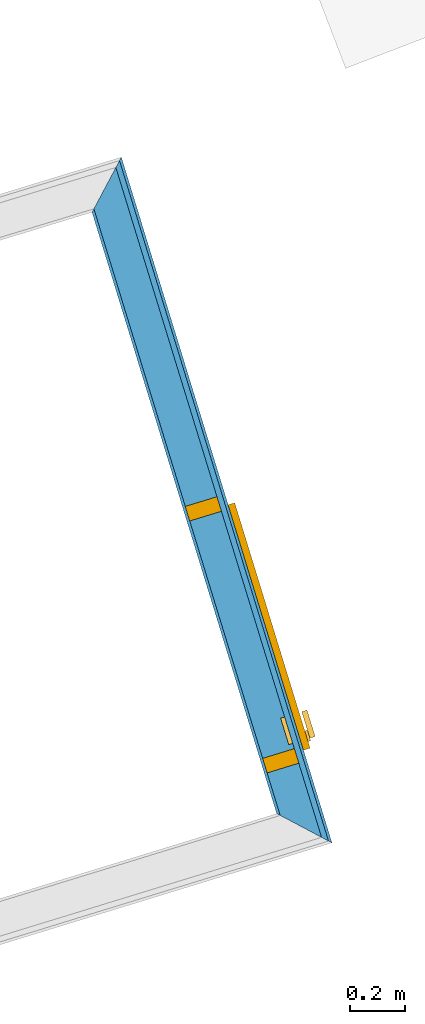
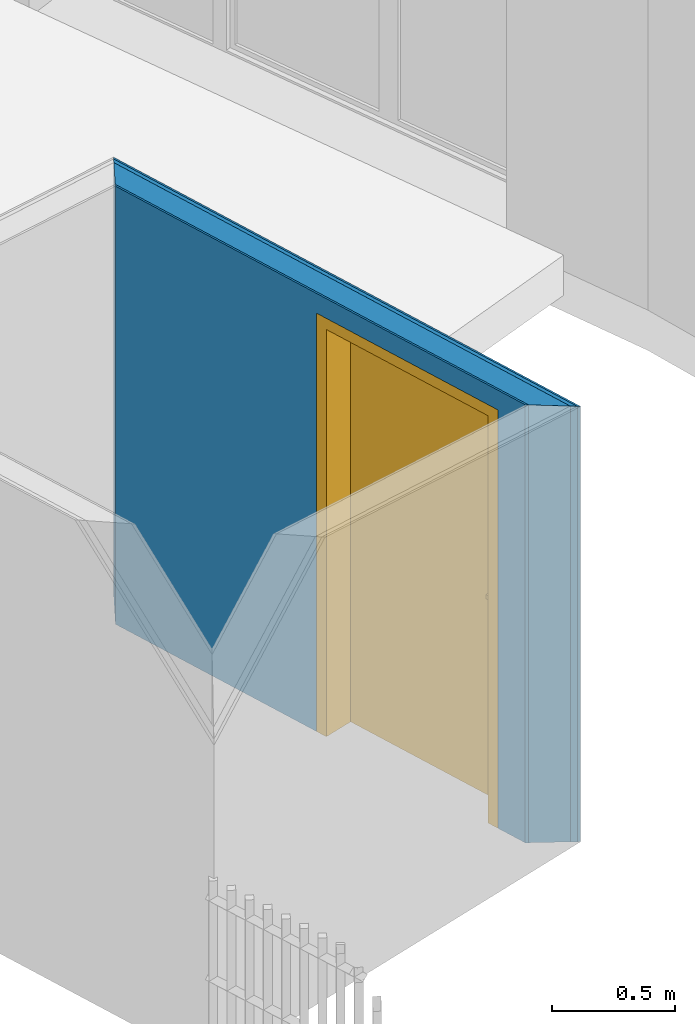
# One storey, part 120 of 195: 4 building element parts, 1 door, 1 opening, 1 element without a shape of its own.
"""IFC2X3 building model written with IfcOpenShell, lengths in metres."""

from ifc_helpers import new_model, entity, si_unit, converted_unit, derived_unit, money_unit, direction, frame, origin_with_axes, origin_2d_with_axis, place, context, subcontext, project, spatial, polyline, rectangle, outline, extrude, boolean, faceted_brep, source, transform, mapped, material, type_object, element, fill, aggregate, save


model = new_model("IFC2X3")

# Units and contexts
model_context = context("Model", 3, precision=1e-05, world=origin_with_axes(), true_north=direction((0.0, 1.0)))
body_context = subcontext(model_context, "Body", "Model", "MODEL_VIEW")
ifc_project = project(units=[si_unit("LENGTHUNIT", "METRE"), si_unit("AREAUNIT", "SQUARE_METRE"), si_unit("VOLUMEUNIT", "CUBIC_METRE"), converted_unit("PLANEANGLEUNIT", "DEGREE", entity("IfcPlaneAngleMeasure", 0.0174532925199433), si_unit("PLANEANGLEUNIT", "RADIAN"), dimensions=[0, 0, 0, 0, 0, 0, 0]), money_unit("CHF"), converted_unit("TIMEUNIT", "Year", entity("IfcTimeMeasure", 31557600.0), si_unit("TIMEUNIT", "SECOND"), dimensions=[0, 0, 1, 0, 0, 0, 0]), si_unit("MASSUNIT", "GRAM", prefix="KILO"), si_unit("THERMODYNAMICTEMPERATUREUNIT", "DEGREE_CELSIUS"), si_unit("LUMINOUSINTENSITYUNIT", "LUMEN"), si_unit("ENERGYUNIT", "JOULE", prefix="MEGA"), derived_unit("THERMALCONDUCTANCEUNIT", [(si_unit("POWERUNIT", "WATT"), 1), (si_unit("LENGTHUNIT", "METRE"), -1), (si_unit("THERMODYNAMICTEMPERATUREUNIT", "KELVIN"), -1)]), derived_unit("SPECIFICHEATCAPACITYUNIT", [(si_unit("ENERGYUNIT", "JOULE"), 1), (si_unit("MASSUNIT", "GRAM", prefix="KILO"), -1), (si_unit("THERMODYNAMICTEMPERATUREUNIT", "KELVIN"), -1)]), derived_unit("MASSDENSITYUNIT", [(si_unit("MASSUNIT", "GRAM", prefix="KILO"), 1), (si_unit("VOLUMEUNIT", "CUBIC_METRE"), -1)])], contexts=[model_context])

# Site, building, storey
site_placement = place(None, origin_with_axes())
site = spatial("IfcSite", under=ifc_project, at=site_placement, Name="Site", CompositionType="ELEMENT")
building_placement = place(site_placement, origin_with_axes())
building = spatial("IfcBuilding", under=site, at=building_placement, Name="Bâtiment", CompositionType="ELEMENT")
storey_placement = place(building_placement, origin_with_axes())
storey = spatial("IfcBuildingStorey", under=building, at=storey_placement, Name="rdc", CompositionType="ELEMENT", Elevation=0.0)

# Door
door_style = type_object("IfcDoorStyle", Name="Porte_1v", ConstructionType="NOTDEFINED", OperationType="NOTDEFINED", ParameterTakesPrecedence=False, Sizeable=False)
shared_shape = source(origin_with_axes(), body_context, "Body", "Brep", [
    faceted_brep([(-0.505, 0.0, 0.0), (-0.505, 0.0, 2.08), (0.505, 0.0, 2.08), (0.505, 0.0, 0.0), (0.465, 0.0, 0.0), (0.465, 0.0, 2.04), (-0.465, 0.0, 2.04), (-0.465, 0.0, 0.0), (-0.505, -0.16, 0.0), (-0.505, -0.16, 2.08), (0.505, -0.16, 2.08), (0.505, -0.16, 0.0), (0.45, -0.16, 0.0), (0.45, -0.015, 0.0), (0.465, -0.015, 0.0), (0.465, -0.015, 2.04), (-0.465, -0.015, 2.04), (-0.465, -0.015, 0.0), (-0.45, -0.015, 0.0), (-0.45, -0.16, 0.0), (-0.45, -0.16, 2.025), (0.45, -0.16, 2.025), (0.45, -0.015, 2.025), (-0.45, -0.015, 2.025)], [[[0, 1, 2, 3, 4, 5, 6, 7]], [[8, 9, 1, 0]], [[9, 10, 2, 1]], [[10, 11, 3, 2]], [[3, 11, 12, 13, 14, 4]], [[5, 4, 14, 15]], [[6, 5, 15, 16]], [[7, 6, 16, 17]], [[0, 7, 17, 18, 19, 8]], [[19, 20, 21, 12, 11, 10, 9, 8]], [[22, 13, 12, 21]], [[17, 16, 15, 14, 13, 22, 23, 18]], [[18, 23, 20, 19]], [[23, 22, 21, 20]]]),
    faceted_brep([(0.4, -0.015, 0.9), (0.4, -0.015, 1.1), (0.44, -0.015, 1.1), (0.44, -0.015, 0.9), (0.4, -0.025, 0.9), (0.4, -0.025, 1.1), (0.44, -0.025, 1.1), (0.44, -0.025, 0.9)], [[[0, 1, 2, 3]], [[0, 4, 5, 1]], [[1, 5, 6, 2]], [[2, 6, 7, 3]], [[3, 7, 4, 0]], [[7, 6, 5, 4]]]),
    faceted_brep([(0.33, -0.025, 1.0), (0.33, -0.025, 1.02), (0.43, -0.025, 1.02), (0.43, -0.025, 1.0), (0.33, -0.045, 1.0), (0.33, -0.045, 1.02), (0.43, -0.045, 1.02), (0.43, -0.045, 1.0)], [[[0, 1, 2, 3]], [[0, 4, 5, 1]], [[1, 5, 6, 2]], [[2, 6, 7, 3]], [[3, 7, 4, 0]], [[7, 6, 5, 4]]]),
    faceted_brep([(0.4, 0.035, 0.9), (0.4, 0.035, 1.1), (0.44, 0.035, 1.1), (0.44, 0.035, 0.9), (0.4, 0.025, 0.9), (0.4, 0.025, 1.1), (0.44, 0.025, 1.1), (0.44, 0.025, 0.9)], [[[0, 1, 2, 3]], [[0, 4, 5, 1]], [[1, 5, 6, 2]], [[2, 6, 7, 3]], [[3, 7, 4, 0]], [[7, 6, 5, 4]]]),
    faceted_brep([(0.33, 0.05500000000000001, 1.0), (0.33, 0.05500000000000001, 1.02), (0.43, 0.05500000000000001, 1.02), (0.43, 0.05500000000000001, 1.0), (0.33, 0.035, 1.0), (0.33, 0.035, 1.02), (0.43, 0.035, 1.02), (0.43, 0.035, 1.0)], [[[0, 1, 2, 3]], [[0, 4, 5, 1]], [[1, 5, 6, 2]], [[2, 6, 7, 3]], [[3, 7, 4, 0]], [[7, 6, 5, 4]]]),
    faceted_brep([(0.465, 0.025, 0.0), (0.465, -0.015, 0.0), (-0.465, -0.015, 0.0), (-0.465, 0.025, 0.0), (0.465, 0.025, 2.04), (0.465, -0.015, 2.04), (-0.465, -0.015, 2.04), (-0.465, 0.025, 2.04)], [[[0, 1, 2, 3]], [[4, 5, 1, 0]], [[1, 5, 6, 2]], [[3, 2, 6, 7]], [[0, 3, 7, 4]], [[7, 6, 5, 4]]]),
])
wall_placement = place(storey_placement, frame((9583.490564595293, -1047.727976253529, 57.7), z_axis=(0.0, 0.0, 1.0), x_axis=(0.2935988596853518, -0.9559287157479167, 0.0)))
opening_placement = place(wall_placement, frame((1.782991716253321, 0.0, 0.0), z_axis=(0.0, 0.0, 1.0), x_axis=(1.0, 0.0, 0.0)))
door_placement = place(opening_placement, frame((-0.4650000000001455, 0.0, 0.0), z_axis=(0.0, 0.0, 1.0), x_axis=(1.0, 0.0, 0.0)))
door = element("IfcDoor", 1, at=door_placement, inside=storey, type_object=door_style, Name="Por-300", OverallHeight=2.04, OverallWidth=0.93, context=body_context, shape_type="MappedRepresentation", body=[
    mapped(shared_shape, transform((0.4650000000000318, 0.0, 0.0))),
])

# Wall, opening
wall_type = type_object("IfcWallType", Name="1/Ossatur bois 160   non isol 160", PredefinedType="NOTDEFINED")
wall = element("IfcWall", 2, at=wall_placement, inside=storey, type_object=wall_type, Name="Mur-110")
opening = element("IfcOpeningElement", 3, at=opening_placement, cuts=wall, Name="Por-300", context=body_context, shape_type="SweptSolid", body=[
    extrude(rectangle(XDim=1.01000001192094, YDim=2.079999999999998, at=origin_2d_with_axis()), frame((-5.960487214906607e-09, -0.1599999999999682, 1.039999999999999), z_axis=(0.0, -1.0, 0.0), x_axis=(-1.0, 0.0, 0.0)), (0.0, 0.0, -1.0), 0.32),
])

fill(opening, door)

# Building element part
ifc_material_1 = material(Name="Lame d'air 275581439")
building_element_part_1_placement = place(wall_placement, origin_with_axes())
building_element_part_1 = element("IfcBuildingElementPart", 4, at=building_element_part_1_placement, material=ifc_material_1, Name="Lame d'air 275581439", context=body_context, shape_type="CSG", body=[
    boolean("DIFFERENCE", boolean("DIFFERENCE", boolean("DIFFERENCE", boolean("DIFFERENCE", extrude(outline(polyline([(-0.0002757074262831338, -0.1500000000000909), (2.599200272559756, -0.1500000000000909), (2.599200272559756, -0.03000000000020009), (-0.0002757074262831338, -0.0300000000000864), (-0.0002757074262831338, -0.1500000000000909)])), origin_with_axes(), (0.0, 0.0, 1.0), 2.75), faceted_brep([(0.1497417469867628, -0.1500000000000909, 2.177348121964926), (0.1497417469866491, -0.1499999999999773, 0.0), (-0.0002757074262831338, -0.1499999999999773, 0.0), (-0.0002757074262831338, -0.1499999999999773, 2.75), (2.599200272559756, -0.1500000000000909, 2.75), (2.599200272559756, -0.1500000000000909, 0.0), (2.449200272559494, -0.1500000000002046, 0.0), (2.449200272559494, -0.1500000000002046, 2.177348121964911), (0.1597245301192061, -0.1600000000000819, 2.178223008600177), (0.1597245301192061, -0.1600000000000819, 0.0), (-0.0002757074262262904, -0.1599999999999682, 0.0), (-0.0002757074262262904, -0.1599999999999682, 2.75), (2.59920027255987, -0.1600000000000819, 2.75), (2.59920027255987, -0.1600000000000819, 0.0), (2.439200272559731, -0.1599999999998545, 0.0), (2.439200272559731, -0.1599999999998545, 2.178223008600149)], [[[0, 1, 2, 3, 4, 5, 6, 7]], [[1, 0, 8, 9]], [[1, 9, 10, 2]], [[3, 2, 10, 11]], [[3, 11, 12, 4]], [[12, 13, 5, 4]], [[14, 6, 5, 13]], [[7, 6, 14, 15]], [[0, 7, 15, 8]], [[15, 14, 13, 12, 11, 10, 9, 8]]])), faceted_brep([(0.02994834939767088, -0.0300000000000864, 2.166849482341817), (0.02994834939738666, -0.02999999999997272, 0.0), (-0.0002757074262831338, -0.02999999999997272, 0.0), (-0.0002757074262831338, -0.02999999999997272, 2.75), (2.599200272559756, -0.03000000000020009, 2.75), (2.599200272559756, -0.03000000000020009, 0.0), (2.569200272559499, -0.02999999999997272, 0.0), (2.569200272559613, -0.03000000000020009, 2.166849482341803), (0.1497417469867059, -0.1499999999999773, 2.177348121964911), (0.1497417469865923, -0.1499999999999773, 0.0), (-0.0002757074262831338, -0.1499999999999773, 0.0), (-0.0002757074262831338, -0.1499999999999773, 2.75), (2.599200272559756, -0.1500000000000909, 2.75), (2.599200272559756, -0.1500000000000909, 0.0), (2.449200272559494, -0.1500000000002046, 0.0), (2.449200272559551, -0.1500000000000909, 2.177348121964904)], [[[0, 1, 2, 3, 4, 5, 6, 7]], [[1, 0, 8, 9]], [[1, 9, 10, 2]], [[3, 2, 10, 11]], [[3, 11, 12, 4]], [[12, 13, 5, 4]], [[14, 6, 5, 13]], [[7, 6, 14, 15]], [[0, 7, 15, 8]], [[15, 14, 13, 12, 11, 10, 9, 8]]])), faceted_brep([(0.009982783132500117, -0.009999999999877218, 2.165099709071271), (0.009982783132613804, -0.01000000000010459, 0.0), (-0.0002757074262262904, -0.01000000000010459, 0.0), (-0.0002757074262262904, -0.01000000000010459, 2.75), (2.599200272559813, -0.009999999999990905, 2.75), (2.599200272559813, -0.009999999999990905, 0.0), (2.589200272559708, -0.009999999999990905, 0.0), (2.589200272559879, -0.009999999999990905, 2.165099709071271), (0.02994834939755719, -0.02999999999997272, 2.166849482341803), (0.02994834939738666, -0.02999999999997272, 0.0), (-0.0002757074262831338, -0.02999999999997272, 0.0), (-0.0002757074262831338, -0.02999999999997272, 2.75), (2.599200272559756, -0.03000000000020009, 2.75), (2.599200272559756, -0.03000000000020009, 0.0), (2.569200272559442, -0.0300000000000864, 0.0), (2.569200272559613, -0.03000000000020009, 2.166849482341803)], [[[0, 1, 2, 3, 4, 5, 6, 7]], [[1, 0, 8, 9]], [[1, 9, 10, 2]], [[3, 2, 10, 11]], [[3, 11, 12, 4]], [[12, 13, 5, 4]], [[14, 6, 5, 13]], [[7, 6, 14, 15]], [[0, 7, 15, 8]], [[15, 14, 13, 12, 11, 10, 9, 8]]])), faceted_brep([(2.599200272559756, 0.0, 0.0), (2.59920027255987, 0.0, 2.164224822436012), (2.59920027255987, 0.0, 2.75), (2.599200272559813, -0.009999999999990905, 2.75), (2.599200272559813, -0.009999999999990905, 0.0), (2.589200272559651, -0.01000000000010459, 0.0), (2.589200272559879, -0.009999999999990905, 2.165099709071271), (0.0, 0.0, 2.164224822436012), (0.0, 0.0, 0.0), (-0.0002757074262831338, 0.0, 0.0), (-0.0002757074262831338, 0.0, 2.75), (-0.0002757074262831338, -0.01000000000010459, 2.75), (-0.0002757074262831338, -0.01000000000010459, 0.0), (0.00998278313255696, -0.01000000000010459, 0.0), (0.00998278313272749, -0.01000000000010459, 2.165099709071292)], [[[0, 1, 2, 3, 4]], [[1, 0, 5, 6]], [[7, 8, 9, 10, 2, 1]], [[10, 11, 3, 2]], [[6, 5, 4, 3, 11, 12, 13, 14]], [[5, 0, 4]], [[7, 1, 6, 14]], [[8, 7, 14, 13]], [[8, 13, 12, 9]], [[10, 9, 12, 11]]])),
])

ifc_material_2 = material(Name="Sans Trame 296962763")
building_element_part_2_placement = place(wall_placement, origin_with_axes())
building_element_part_2 = element("IfcBuildingElementPart", 5, at=building_element_part_2_placement, material=ifc_material_2, Name="Sans Trame 296962763", context=body_context, shape_type="CSG", body=[
    boolean("DIFFERENCE", boolean("DIFFERENCE", boolean("DIFFERENCE", boolean("DIFFERENCE", extrude(outline(polyline([(-0.0002757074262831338, -0.1600000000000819), (2.599200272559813, -0.1600000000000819), (2.599200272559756, -0.1500000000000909), (-0.0002757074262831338, -0.1500000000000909), (-0.0002757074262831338, -0.1600000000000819)])), origin_with_axes(), (0.0, 0.0, 1.0), 2.75), faceted_brep([(0.1497417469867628, -0.1500000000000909, 2.177348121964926), (0.1497417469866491, -0.1499999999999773, 0.0), (-0.0002757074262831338, -0.1499999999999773, 0.0), (-0.0002757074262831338, -0.1499999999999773, 2.75), (2.599200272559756, -0.1500000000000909, 2.75), (2.599200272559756, -0.1500000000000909, 0.0), (2.449200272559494, -0.1500000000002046, 0.0), (2.449200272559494, -0.1500000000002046, 2.177348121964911), (0.1597245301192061, -0.1600000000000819, 2.178223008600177), (0.1597245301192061, -0.1600000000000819, 0.0), (-0.0002757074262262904, -0.1599999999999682, 0.0), (-0.0002757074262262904, -0.1599999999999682, 2.75), (2.59920027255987, -0.1600000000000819, 2.75), (2.59920027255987, -0.1600000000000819, 0.0), (2.439200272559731, -0.1599999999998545, 0.0), (2.439200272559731, -0.1599999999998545, 2.178223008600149)], [[[0, 1, 2, 3, 4, 5, 6, 7]], [[1, 0, 8, 9]], [[1, 9, 10, 2]], [[3, 2, 10, 11]], [[3, 11, 12, 4]], [[12, 13, 5, 4]], [[14, 6, 5, 13]], [[7, 6, 14, 15]], [[0, 7, 15, 8]], [[15, 14, 13, 12, 11, 10, 9, 8]]])), faceted_brep([(0.02994834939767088, -0.0300000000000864, 2.166849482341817), (0.02994834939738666, -0.02999999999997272, 0.0), (-0.0002757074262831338, -0.02999999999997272, 0.0), (-0.0002757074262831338, -0.02999999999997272, 2.75), (2.599200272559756, -0.03000000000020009, 2.75), (2.599200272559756, -0.03000000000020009, 0.0), (2.569200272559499, -0.02999999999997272, 0.0), (2.569200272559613, -0.03000000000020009, 2.166849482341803), (0.1497417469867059, -0.1499999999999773, 2.177348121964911), (0.1497417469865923, -0.1499999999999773, 0.0), (-0.0002757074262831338, -0.1499999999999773, 0.0), (-0.0002757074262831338, -0.1499999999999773, 2.75), (2.599200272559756, -0.1500000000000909, 2.75), (2.599200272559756, -0.1500000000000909, 0.0), (2.449200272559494, -0.1500000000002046, 0.0), (2.449200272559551, -0.1500000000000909, 2.177348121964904)], [[[0, 1, 2, 3, 4, 5, 6, 7]], [[1, 0, 8, 9]], [[1, 9, 10, 2]], [[3, 2, 10, 11]], [[3, 11, 12, 4]], [[12, 13, 5, 4]], [[14, 6, 5, 13]], [[7, 6, 14, 15]], [[0, 7, 15, 8]], [[15, 14, 13, 12, 11, 10, 9, 8]]])), faceted_brep([(0.009982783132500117, -0.009999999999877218, 2.165099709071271), (0.009982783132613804, -0.01000000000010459, 0.0), (-0.0002757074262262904, -0.01000000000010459, 0.0), (-0.0002757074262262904, -0.01000000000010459, 2.75), (2.599200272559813, -0.009999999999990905, 2.75), (2.599200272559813, -0.009999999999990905, 0.0), (2.589200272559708, -0.009999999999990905, 0.0), (2.589200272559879, -0.009999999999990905, 2.165099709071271), (0.02994834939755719, -0.02999999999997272, 2.166849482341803), (0.02994834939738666, -0.02999999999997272, 0.0), (-0.0002757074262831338, -0.02999999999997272, 0.0), (-0.0002757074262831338, -0.02999999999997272, 2.75), (2.599200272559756, -0.03000000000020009, 2.75), (2.599200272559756, -0.03000000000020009, 0.0), (2.569200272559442, -0.0300000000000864, 0.0), (2.569200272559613, -0.03000000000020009, 2.166849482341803)], [[[0, 1, 2, 3, 4, 5, 6, 7]], [[1, 0, 8, 9]], [[1, 9, 10, 2]], [[3, 2, 10, 11]], [[3, 11, 12, 4]], [[12, 13, 5, 4]], [[14, 6, 5, 13]], [[7, 6, 14, 15]], [[0, 7, 15, 8]], [[15, 14, 13, 12, 11, 10, 9, 8]]])), faceted_brep([(2.599200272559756, 0.0, 0.0), (2.59920027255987, 0.0, 2.164224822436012), (2.59920027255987, 0.0, 2.75), (2.599200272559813, -0.009999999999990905, 2.75), (2.599200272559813, -0.009999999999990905, 0.0), (2.589200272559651, -0.01000000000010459, 0.0), (2.589200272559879, -0.009999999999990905, 2.165099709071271), (0.0, 0.0, 2.164224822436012), (0.0, 0.0, 0.0), (-0.0002757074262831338, 0.0, 0.0), (-0.0002757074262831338, 0.0, 2.75), (-0.0002757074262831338, -0.01000000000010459, 2.75), (-0.0002757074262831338, -0.01000000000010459, 0.0), (0.00998278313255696, -0.01000000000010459, 0.0), (0.00998278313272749, -0.01000000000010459, 2.165099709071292)], [[[0, 1, 2, 3, 4]], [[1, 0, 5, 6]], [[7, 8, 9, 10, 2, 1]], [[10, 11, 3, 2]], [[6, 5, 4, 3, 11, 12, 13, 14]], [[5, 0, 4]], [[7, 1, 6, 14]], [[8, 7, 14, 13]], [[8, 13, 12, 9]], [[10, 9, 12, 11]]])),
])

ifc_material_3 = material(Name="Lame d'air 323202302")
building_element_part_3_placement = place(wall_placement, origin_with_axes())
building_element_part_3 = element("IfcBuildingElementPart", 6, at=building_element_part_3_placement, material=ifc_material_3, Name="Lame d'air 323202302", context=body_context, shape_type="CSG", body=[
    boolean("DIFFERENCE", boolean("DIFFERENCE", boolean("DIFFERENCE", boolean("DIFFERENCE", extrude(outline(polyline([(-0.0002757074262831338, -0.0300000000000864), (2.599200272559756, -0.03000000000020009), (2.599200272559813, -0.009999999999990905), (-0.0002757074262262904, -0.01000000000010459), (-0.0002757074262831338, -0.0300000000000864)])), origin_with_axes(), (0.0, 0.0, 1.0), 2.75), faceted_brep([(0.1497417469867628, -0.1500000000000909, 2.177348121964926), (0.1497417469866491, -0.1499999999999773, 0.0), (-0.0002757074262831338, -0.1499999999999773, 0.0), (-0.0002757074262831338, -0.1499999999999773, 2.75), (2.599200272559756, -0.1500000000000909, 2.75), (2.599200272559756, -0.1500000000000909, 0.0), (2.449200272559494, -0.1500000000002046, 0.0), (2.449200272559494, -0.1500000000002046, 2.177348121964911), (0.1597245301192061, -0.1600000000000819, 2.178223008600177), (0.1597245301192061, -0.1600000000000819, 0.0), (-0.0002757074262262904, -0.1599999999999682, 0.0), (-0.0002757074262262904, -0.1599999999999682, 2.75), (2.59920027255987, -0.1600000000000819, 2.75), (2.59920027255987, -0.1600000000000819, 0.0), (2.439200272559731, -0.1599999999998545, 0.0), (2.439200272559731, -0.1599999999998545, 2.178223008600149)], [[[0, 1, 2, 3, 4, 5, 6, 7]], [[1, 0, 8, 9]], [[1, 9, 10, 2]], [[3, 2, 10, 11]], [[3, 11, 12, 4]], [[12, 13, 5, 4]], [[14, 6, 5, 13]], [[7, 6, 14, 15]], [[0, 7, 15, 8]], [[15, 14, 13, 12, 11, 10, 9, 8]]])), faceted_brep([(0.02994834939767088, -0.0300000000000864, 2.166849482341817), (0.02994834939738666, -0.02999999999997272, 0.0), (-0.0002757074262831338, -0.02999999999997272, 0.0), (-0.0002757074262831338, -0.02999999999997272, 2.75), (2.599200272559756, -0.03000000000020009, 2.75), (2.599200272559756, -0.03000000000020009, 0.0), (2.569200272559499, -0.02999999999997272, 0.0), (2.569200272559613, -0.03000000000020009, 2.166849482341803), (0.1497417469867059, -0.1499999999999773, 2.177348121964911), (0.1497417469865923, -0.1499999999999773, 0.0), (-0.0002757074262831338, -0.1499999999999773, 0.0), (-0.0002757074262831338, -0.1499999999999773, 2.75), (2.599200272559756, -0.1500000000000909, 2.75), (2.599200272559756, -0.1500000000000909, 0.0), (2.449200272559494, -0.1500000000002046, 0.0), (2.449200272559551, -0.1500000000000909, 2.177348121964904)], [[[0, 1, 2, 3, 4, 5, 6, 7]], [[1, 0, 8, 9]], [[1, 9, 10, 2]], [[3, 2, 10, 11]], [[3, 11, 12, 4]], [[12, 13, 5, 4]], [[14, 6, 5, 13]], [[7, 6, 14, 15]], [[0, 7, 15, 8]], [[15, 14, 13, 12, 11, 10, 9, 8]]])), faceted_brep([(0.009982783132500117, -0.009999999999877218, 2.165099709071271), (0.009982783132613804, -0.01000000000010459, 0.0), (-0.0002757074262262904, -0.01000000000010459, 0.0), (-0.0002757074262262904, -0.01000000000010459, 2.75), (2.599200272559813, -0.009999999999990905, 2.75), (2.599200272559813, -0.009999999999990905, 0.0), (2.589200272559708, -0.009999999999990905, 0.0), (2.589200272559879, -0.009999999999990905, 2.165099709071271), (0.02994834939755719, -0.02999999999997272, 2.166849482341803), (0.02994834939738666, -0.02999999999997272, 0.0), (-0.0002757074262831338, -0.02999999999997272, 0.0), (-0.0002757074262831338, -0.02999999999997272, 2.75), (2.599200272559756, -0.03000000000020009, 2.75), (2.599200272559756, -0.03000000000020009, 0.0), (2.569200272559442, -0.0300000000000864, 0.0), (2.569200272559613, -0.03000000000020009, 2.166849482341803)], [[[0, 1, 2, 3, 4, 5, 6, 7]], [[1, 0, 8, 9]], [[1, 9, 10, 2]], [[3, 2, 10, 11]], [[3, 11, 12, 4]], [[12, 13, 5, 4]], [[14, 6, 5, 13]], [[7, 6, 14, 15]], [[0, 7, 15, 8]], [[15, 14, 13, 12, 11, 10, 9, 8]]])), faceted_brep([(2.599200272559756, 0.0, 0.0), (2.59920027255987, 0.0, 2.164224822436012), (2.59920027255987, 0.0, 2.75), (2.599200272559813, -0.009999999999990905, 2.75), (2.599200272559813, -0.009999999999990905, 0.0), (2.589200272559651, -0.01000000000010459, 0.0), (2.589200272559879, -0.009999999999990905, 2.165099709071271), (0.0, 0.0, 2.164224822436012), (0.0, 0.0, 0.0), (-0.0002757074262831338, 0.0, 0.0), (-0.0002757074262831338, 0.0, 2.75), (-0.0002757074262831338, -0.01000000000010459, 2.75), (-0.0002757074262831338, -0.01000000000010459, 0.0), (0.00998278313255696, -0.01000000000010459, 0.0), (0.00998278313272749, -0.01000000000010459, 2.165099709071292)], [[[0, 1, 2, 3, 4]], [[1, 0, 5, 6]], [[7, 8, 9, 10, 2, 1]], [[10, 11, 3, 2]], [[6, 5, 4, 3, 11, 12, 13, 14]], [[5, 0, 4]], [[7, 1, 6, 14]], [[8, 7, 14, 13]], [[8, 13, 12, 9]], [[10, 9, 12, 11]]])),
])

ifc_material_4 = material(Name="Hachure solide 323202122")
building_element_part_4_placement = place(wall_placement, origin_with_axes())
building_element_part_4 = element("IfcBuildingElementPart", 7, at=building_element_part_4_placement, material=ifc_material_4, Name="Hachure solide 323202122", context=body_context, shape_type="CSG", body=[
    boolean("DIFFERENCE", boolean("DIFFERENCE", boolean("DIFFERENCE", boolean("DIFFERENCE", extrude(outline(polyline([(-0.0002757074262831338, -0.01000000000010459), (2.599200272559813, -0.009999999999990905), (2.59920027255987, 0.0), (-0.0002757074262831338, 0.0), (-0.0002757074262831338, -0.01000000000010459)])), origin_with_axes(), (0.0, 0.0, 1.0), 2.75), faceted_brep([(0.1497417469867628, -0.1500000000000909, 2.177348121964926), (0.1497417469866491, -0.1499999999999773, 0.0), (-0.0002757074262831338, -0.1499999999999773, 0.0), (-0.0002757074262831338, -0.1499999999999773, 2.75), (2.599200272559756, -0.1500000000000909, 2.75), (2.599200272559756, -0.1500000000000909, 0.0), (2.449200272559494, -0.1500000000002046, 0.0), (2.449200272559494, -0.1500000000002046, 2.177348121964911), (0.1597245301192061, -0.1600000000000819, 2.178223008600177), (0.1597245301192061, -0.1600000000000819, 0.0), (-0.0002757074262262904, -0.1599999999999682, 0.0), (-0.0002757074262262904, -0.1599999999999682, 2.75), (2.59920027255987, -0.1600000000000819, 2.75), (2.59920027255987, -0.1600000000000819, 0.0), (2.439200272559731, -0.1599999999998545, 0.0), (2.439200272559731, -0.1599999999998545, 2.178223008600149)], [[[0, 1, 2, 3, 4, 5, 6, 7]], [[1, 0, 8, 9]], [[1, 9, 10, 2]], [[3, 2, 10, 11]], [[3, 11, 12, 4]], [[12, 13, 5, 4]], [[14, 6, 5, 13]], [[7, 6, 14, 15]], [[0, 7, 15, 8]], [[15, 14, 13, 12, 11, 10, 9, 8]]])), faceted_brep([(0.02994834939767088, -0.0300000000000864, 2.166849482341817), (0.02994834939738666, -0.02999999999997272, 0.0), (-0.0002757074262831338, -0.02999999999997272, 0.0), (-0.0002757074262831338, -0.02999999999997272, 2.75), (2.599200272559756, -0.03000000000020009, 2.75), (2.599200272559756, -0.03000000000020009, 0.0), (2.569200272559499, -0.02999999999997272, 0.0), (2.569200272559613, -0.03000000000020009, 2.166849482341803), (0.1497417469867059, -0.1499999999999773, 2.177348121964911), (0.1497417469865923, -0.1499999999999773, 0.0), (-0.0002757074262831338, -0.1499999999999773, 0.0), (-0.0002757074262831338, -0.1499999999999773, 2.75), (2.599200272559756, -0.1500000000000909, 2.75), (2.599200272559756, -0.1500000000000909, 0.0), (2.449200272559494, -0.1500000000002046, 0.0), (2.449200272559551, -0.1500000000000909, 2.177348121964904)], [[[0, 1, 2, 3, 4, 5, 6, 7]], [[1, 0, 8, 9]], [[1, 9, 10, 2]], [[3, 2, 10, 11]], [[3, 11, 12, 4]], [[12, 13, 5, 4]], [[14, 6, 5, 13]], [[7, 6, 14, 15]], [[0, 7, 15, 8]], [[15, 14, 13, 12, 11, 10, 9, 8]]])), faceted_brep([(0.009982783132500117, -0.009999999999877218, 2.165099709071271), (0.009982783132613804, -0.01000000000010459, 0.0), (-0.0002757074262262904, -0.01000000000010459, 0.0), (-0.0002757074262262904, -0.01000000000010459, 2.75), (2.599200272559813, -0.009999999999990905, 2.75), (2.599200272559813, -0.009999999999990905, 0.0), (2.589200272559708, -0.009999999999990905, 0.0), (2.589200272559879, -0.009999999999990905, 2.165099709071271), (0.02994834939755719, -0.02999999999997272, 2.166849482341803), (0.02994834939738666, -0.02999999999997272, 0.0), (-0.0002757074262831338, -0.02999999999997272, 0.0), (-0.0002757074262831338, -0.02999999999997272, 2.75), (2.599200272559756, -0.03000000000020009, 2.75), (2.599200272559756, -0.03000000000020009, 0.0), (2.569200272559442, -0.0300000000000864, 0.0), (2.569200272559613, -0.03000000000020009, 2.166849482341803)], [[[0, 1, 2, 3, 4, 5, 6, 7]], [[1, 0, 8, 9]], [[1, 9, 10, 2]], [[3, 2, 10, 11]], [[3, 11, 12, 4]], [[12, 13, 5, 4]], [[14, 6, 5, 13]], [[7, 6, 14, 15]], [[0, 7, 15, 8]], [[15, 14, 13, 12, 11, 10, 9, 8]]])), faceted_brep([(2.599200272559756, 0.0, 0.0), (2.59920027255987, 0.0, 2.164224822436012), (2.59920027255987, 0.0, 2.75), (2.599200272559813, -0.009999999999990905, 2.75), (2.599200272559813, -0.009999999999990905, 0.0), (2.589200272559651, -0.01000000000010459, 0.0), (2.589200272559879, -0.009999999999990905, 2.165099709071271), (0.0, 0.0, 2.164224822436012), (0.0, 0.0, 0.0), (-0.0002757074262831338, 0.0, 0.0), (-0.0002757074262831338, 0.0, 2.75), (-0.0002757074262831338, -0.01000000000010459, 2.75), (-0.0002757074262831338, -0.01000000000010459, 0.0), (0.00998278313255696, -0.01000000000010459, 0.0), (0.00998278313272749, -0.01000000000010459, 2.165099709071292)], [[[0, 1, 2, 3, 4]], [[1, 0, 5, 6]], [[7, 8, 9, 10, 2, 1]], [[10, 11, 3, 2]], [[6, 5, 4, 3, 11, 12, 13, 14]], [[5, 0, 4]], [[7, 1, 6, 14]], [[8, 7, 14, 13]], [[8, 13, 12, 9]], [[10, 9, 12, 11]]])),
])

aggregate(wall, [building_element_part_1, building_element_part_2, building_element_part_3, building_element_part_4])

save(model, "model.ifc")
